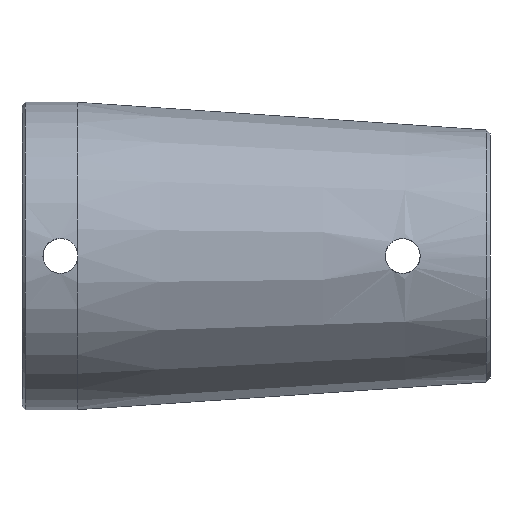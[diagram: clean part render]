
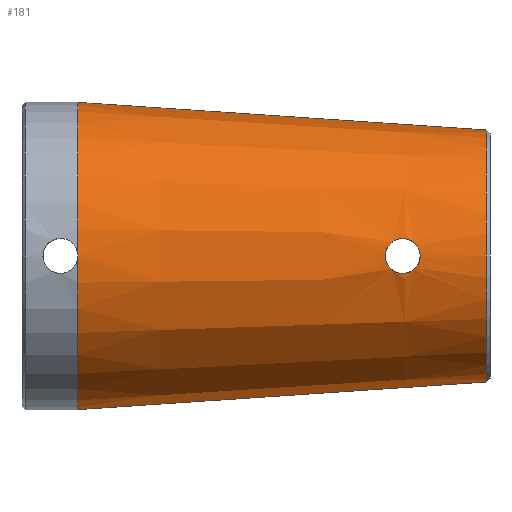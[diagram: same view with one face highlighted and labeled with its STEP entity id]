
A CAD part, front view. The second image highlights one B-rep face of the part: STEP entity #181.
In plain terms, the highlighted conical face has half-angle 3.879 degrees and reference radius 18 mm.
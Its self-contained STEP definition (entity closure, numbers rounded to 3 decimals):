
#26 = EDGE_CURVE ( 'NONE', #85, #1202, #339, .T. ) ;
#85 = VERTEX_POINT ( 'NONE', #136 ) ;
#130 = VERTEX_POINT ( 'NONE', #264 ) ;
#136 = CARTESIAN_POINT ( 'NONE',  ( 54.5, -18.681, 2.5 ) ) ;
#142 = CARTESIAN_POINT ( 'NONE',  ( 54.5, -18.681, 2.5 ) ) ;
#169 = EDGE_CURVE ( 'NONE', #1202, #85, #1215, .T. ) ;
#181 = ADVANCED_FACE ( 'NONE', ( #720, #500 ), #640, .T. ) ;
#182 = CARTESIAN_POINT ( 'NONE',  ( 66.464, 0., 0. ) ) ;
#191 = DIRECTION ( 'NONE',  ( -1., 0., 0. ) ) ;
#199 = DIRECTION ( 'NONE',  ( 0., 0., -1. ) ) ;
#214 = ORIENTED_EDGE ( 'NONE', *, *, #1510, .T. ) ;
#247 = CIRCLE ( 'NONE', #614, 18.036 ) ;
#263 = CARTESIAN_POINT ( 'NONE',  ( 55.607, -18.637, -2.248 ) ) ;
#264 = CARTESIAN_POINT ( 'NONE',  ( 66.464, 0., -18.036 ) ) ;
#268 = CARTESIAN_POINT ( 'NONE',  ( 55.305, -18.643, -2.373 ) ) ;
#269 = CARTESIAN_POINT ( 'NONE',  ( 55.149, -18.647, -2.42 ) ) ;
#274 = CARTESIAN_POINT ( 'NONE',  ( 54.828, -18.661, -2.484 ) ) ;
#287 = DIRECTION ( 'NONE',  ( 0., 0., 1. ) ) ;
#292 = VECTOR ( 'NONE', #1265, 1000. ) ;
#299 = CARTESIAN_POINT ( 'NONE',  ( 54.663, -18.67, -2.5 ) ) ;
#322 = CARTESIAN_POINT ( 'NONE',  ( 67., 0., 0. ) ) ;
#329 = CARTESIAN_POINT ( 'NONE',  ( 54.5, -18.681, -2.5 ) ) ;
#331 = CARTESIAN_POINT ( 'NONE',  ( 54.174, -18.703, -2.5 ) ) ;
#334 = CARTESIAN_POINT ( 'NONE',  ( 53.845, -18.735, -2.434 ) ) ;
#338 = CARTESIAN_POINT ( 'NONE',  ( 53.244, -18.806, -2.186 ) ) ;
#339 = B_SPLINE_CURVE_WITH_KNOTS ( 'NONE', 3,
 ( #142, #1076, #1035, #1080, #1084, #1088, #1089, #1092, #1093, #1095, #1099, #1100, #1107, #1110, #1112, #1281, #1259, #1245, #1224, #995, #982, #1007, #984, #977, #263, #268, #269, #274, #299, #385 ),
 .UNSPECIFIED., .F., .F.,
 ( 4, 2, 2, 2, 2, 2, 2, 2, 2, 2, 2, 2, 2, 2, 4 ),
 ( 0.006, 0.006, 0.007, 0.007, 0.008, 0.009, 0.009, 0.01, 0.01, 0.011, 0.012, 0.012, 0.013, 0.013, 0.014 ),
 .UNSPECIFIED. ) ;
#355 = CARTESIAN_POINT ( 'NONE',  ( 52.965, -18.847, -2.001 ) ) ;
#358 = CARTESIAN_POINT ( 'NONE',  ( 52.616, -18.903, -1.652 ) ) ;
#362 = CARTESIAN_POINT ( 'NONE',  ( 52.513, -18.921, -1.526 ) ) ;
#364 = CARTESIAN_POINT ( 'NONE',  ( 52.332, -18.953, -1.255 ) ) ;
#366 = CARTESIAN_POINT ( 'NONE',  ( 52.253, -18.968, -1.109 ) ) ;
#372 = CARTESIAN_POINT ( 'NONE',  ( 52.128, -18.992, -0.806 ) ) ;
#377 = CARTESIAN_POINT ( 'NONE',  ( 52.08, -19.001, -0.65 ) ) ;
#379 = CARTESIAN_POINT ( 'NONE',  ( 52.016, -19.014, -0.328 ) ) ;
#381 = CARTESIAN_POINT ( 'NONE',  ( 52., -19.017, -0.162 ) ) ;
#382 = CARTESIAN_POINT ( 'NONE',  ( 52., -19.017, 0.329 ) ) ;
#384 = CARTESIAN_POINT ( 'NONE',  ( 52.066, -19.003, 0.659 ) ) ;
#385 = CARTESIAN_POINT ( 'NONE',  ( 54.5, -18.681, -2.5 ) ) ;
#393 = CARTESIAN_POINT ( 'NONE',  ( 52.254, -18.968, 1.111 ) ) ;
#398 = EDGE_CURVE ( 'NONE', #1507, #550, #1054, .T. ) ;
#400 = CARTESIAN_POINT ( 'NONE',  ( 52.849, -18.866, 1.885 ) ) ;
#403 = CARTESIAN_POINT ( 'NONE',  ( 52.978, -18.846, 1.99 ) ) ;
#404 = CARTESIAN_POINT ( 'NONE',  ( 53.248, -18.808, 2.17 ) ) ;
#406 = CARTESIAN_POINT ( 'NONE',  ( 53.392, -18.789, 2.247 ) ) ;
#409 = CARTESIAN_POINT ( 'NONE',  ( 53.846, -18.735, 2.435 ) ) ;
#410 = CARTESIAN_POINT ( 'NONE',  ( 54.17, -18.703, 2.5 ) ) ;
#413 = CARTESIAN_POINT ( 'NONE',  ( 54.5, -18.681, 2.5 ) ) ;
#422 = VECTOR ( 'NONE', #872, 1000. ) ;
#424 = EDGE_CURVE ( 'NONE', #1085, #1340, #1388, .T. ) ;
#428 = DIRECTION ( 'NONE',  ( -1., 0., 0. ) ) ;
#472 = EDGE_CURVE ( 'NONE', #550, #1340, #1196, .T. ) ;
#485 = CARTESIAN_POINT ( 'NONE',  ( 52.619, -18.903, 1.654 ) ) ;
#499 = CARTESIAN_POINT ( 'NONE',  ( 52.515, -18.921, 1.529 ) ) ;
#500 = FACE_BOUND ( 'NONE', #1420, .T. ) ;
#508 = CARTESIAN_POINT ( 'NONE',  ( 52.333, -18.953, 1.257 ) ) ;
#510 = EDGE_CURVE ( 'NONE', #130, #1507, #619, .T. ) ;
#548 = ORIENTED_EDGE ( 'NONE', *, *, #472, .F. ) ;
#550 = VERTEX_POINT ( 'NONE', #1386 ) ;
#614 = AXIS2_PLACEMENT_3D ( 'NONE', #182, #191, #199 ) ;
#619 = LINE ( 'NONE', #1261, #292 ) ;
#640 = CONICAL_SURFACE ( 'NONE', #1034, 18., 0.068 ) ;
#668 = CARTESIAN_POINT ( 'NONE',  ( 66.464, 0., 18.036 ) ) ;
#720 = FACE_OUTER_BOUND ( 'NONE', #1283, .T. ) ;
#752 = ORIENTED_EDGE ( 'NONE', *, *, #510, .F. ) ;
#804 = CARTESIAN_POINT ( 'NONE',  ( 8., 0., 0. ) ) ;
#806 = DIRECTION ( 'NONE',  ( -1., 0., 0. ) ) ;
#809 = DIRECTION ( 'NONE',  ( 0., 0., 1. ) ) ;
#870 = CARTESIAN_POINT ( 'NONE',  ( 67., 0., 18. ) ) ;
#872 = DIRECTION ( 'NONE',  ( -0.998, 0., 0.068 ) ) ;
#977 = CARTESIAN_POINT ( 'NONE',  ( 55.754, -18.637, -2.169 ) ) ;
#982 = CARTESIAN_POINT ( 'NONE',  ( 56.5, -18.65, -1.535 ) ) ;
#984 = CARTESIAN_POINT ( 'NONE',  ( 56.025, -18.639, -1.988 ) ) ;
#995 = CARTESIAN_POINT ( 'NONE',  ( 56.684, -18.659, -1.26 ) ) ;
#1007 = CARTESIAN_POINT ( 'NONE',  ( 56.151, -18.641, -1.884 ) ) ;
#1009 = ORIENTED_EDGE ( 'NONE', *, *, #169, .T. ) ;
#1034 = AXIS2_PLACEMENT_3D ( 'NONE', #322, #428, #287 ) ;
#1035 = CARTESIAN_POINT ( 'NONE',  ( 54.826, -18.661, 2.484 ) ) ;
#1054 = CIRCLE ( 'NONE', #1313, 22. ) ;
#1076 = CARTESIAN_POINT ( 'NONE',  ( 54.664, -18.67, 2.5 ) ) ;
#1080 = CARTESIAN_POINT ( 'NONE',  ( 55.146, -18.647, 2.421 ) ) ;
#1084 = CARTESIAN_POINT ( 'NONE',  ( 55.305, -18.643, 2.372 ) ) ;
#1085 = VERTEX_POINT ( 'NONE', #668 ) ;
#1088 = CARTESIAN_POINT ( 'NONE',  ( 55.608, -18.637, 2.247 ) ) ;
#1089 = CARTESIAN_POINT ( 'NONE',  ( 55.751, -18.637, 2.171 ) ) ;
#1092 = CARTESIAN_POINT ( 'NONE',  ( 56.024, -18.639, 1.989 ) ) ;
#1093 = CARTESIAN_POINT ( 'NONE',  ( 56.152, -18.641, 1.883 ) ) ;
#1095 = CARTESIAN_POINT ( 'NONE',  ( 56.498, -18.65, 1.538 ) ) ;
#1099 = CARTESIAN_POINT ( 'NONE',  ( 56.685, -18.659, 1.258 ) ) ;
#1100 = CARTESIAN_POINT ( 'NONE',  ( 56.872, -18.67, 0.807 ) ) ;
#1103 = CARTESIAN_POINT ( 'NONE',  ( 8., 0., -22. ) ) ;
#1107 = CARTESIAN_POINT ( 'NONE',  ( 56.92, -18.673, 0.648 ) ) ;
#1110 = CARTESIAN_POINT ( 'NONE',  ( 56.984, -18.677, 0.327 ) ) ;
#1112 = CARTESIAN_POINT ( 'NONE',  ( 57., -18.678, 0.164 ) ) ;
#1120 = ORIENTED_EDGE ( 'NONE', *, *, #26, .T. ) ;
#1125 = CARTESIAN_POINT ( 'NONE',  ( 8., 0., 0. ) ) ;
#1127 = DIRECTION ( 'NONE',  ( -1., 0., 0. ) ) ;
#1131 = DIRECTION ( 'NONE',  ( 0., 0., 1. ) ) ;
#1185 = AXIS2_PLACEMENT_3D ( 'NONE', #1125, #1127, #1131 ) ;
#1196 = CIRCLE ( 'NONE', #1185, 22. ) ;
#1202 = VERTEX_POINT ( 'NONE', #1467 ) ;
#1215 = B_SPLINE_CURVE_WITH_KNOTS ( 'NONE', 3,
 ( #329, #331, #334, #338, #355, #358, #362, #364, #366, #372, #377, #379, #381, #382, #384, #393, #508, #499, #485, #400, #403, #404, #406, #409, #410, #413 ),
 .UNSPECIFIED., .F., .F.,
 ( 4, 2, 2, 2, 2, 2, 2, 2, 2, 2, 2, 2, 4 ),
 ( 0.014, 0.015, 0.016, 0.016, 0.017, 0.017, 0.018, 0.019, 0.019, 0.02, 0.02, 0.021, 0.022 ),
 .UNSPECIFIED. ) ;
#1224 = CARTESIAN_POINT ( 'NONE',  ( 56.873, -18.67, -0.804 ) ) ;
#1245 = CARTESIAN_POINT ( 'NONE',  ( 56.92, -18.673, -0.648 ) ) ;
#1259 = CARTESIAN_POINT ( 'NONE',  ( 56.984, -18.677, -0.328 ) ) ;
#1261 = CARTESIAN_POINT ( 'NONE',  ( 67., 0., -18. ) ) ;
#1265 = DIRECTION ( 'NONE',  ( -0.998, 0., -0.068 ) ) ;
#1266 = CARTESIAN_POINT ( 'NONE',  ( 8., 0., 22. ) ) ;
#1281 = CARTESIAN_POINT ( 'NONE',  ( 57., -18.678, -0.162 ) ) ;
#1283 = EDGE_LOOP ( 'NONE', ( #752, #214, #1357, #548, #1463 ) ) ;
#1313 = AXIS2_PLACEMENT_3D ( 'NONE', #804, #806, #809 ) ;
#1340 = VERTEX_POINT ( 'NONE', #1266 ) ;
#1357 = ORIENTED_EDGE ( 'NONE', *, *, #424, .T. ) ;
#1386 = CARTESIAN_POINT ( 'NONE',  ( 8., -22., 0. ) ) ;
#1388 = LINE ( 'NONE', #870, #422 ) ;
#1420 = EDGE_LOOP ( 'NONE', ( #1120, #1009 ) ) ;
#1463 = ORIENTED_EDGE ( 'NONE', *, *, #398, .F. ) ;
#1467 = CARTESIAN_POINT ( 'NONE',  ( 54.5, -18.681, -2.5 ) ) ;
#1507 = VERTEX_POINT ( 'NONE', #1103 ) ;
#1510 = EDGE_CURVE ( 'NONE', #130, #1085, #247, .T. ) ;
